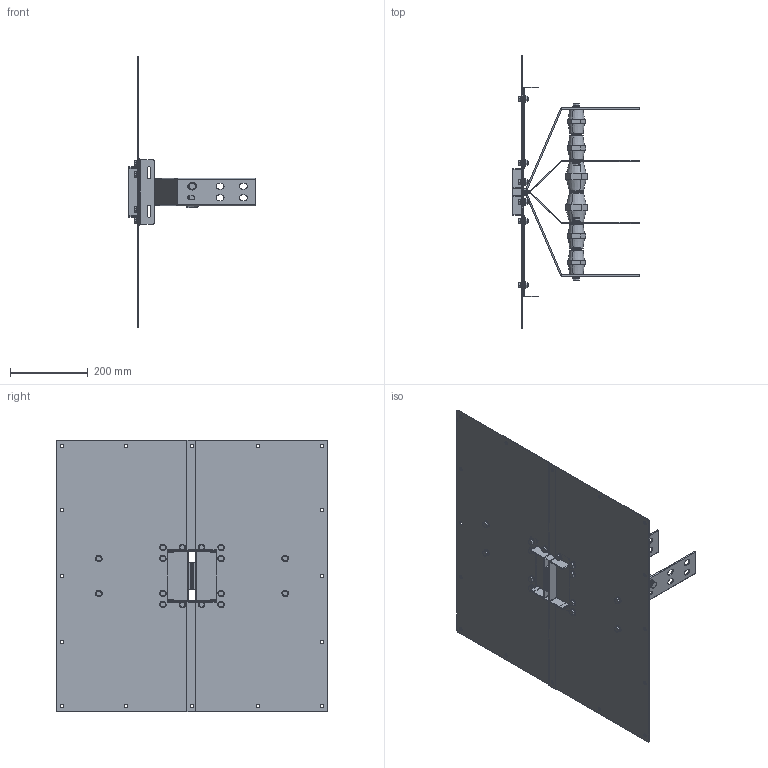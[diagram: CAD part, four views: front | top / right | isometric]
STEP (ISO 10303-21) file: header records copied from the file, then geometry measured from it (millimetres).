
FILE_DESCRIPTION(('CATIA V5 STEP','CAx-IF Rec.Pracs.--- Model Styling and Organization---1.5--- 2016-08-15','CAx-IF Rec.Pracs.---Supplemental Geometry---1.0---2011-11-01','CAx-IF Rec.Pracs.--- Composite Materials ---1.1---2010-07-15'),'2;1');
FILE_NAME('K:\COSCN 2011\32372311_RiduzioneSezioniBarre\03_Studio\__Modelli semplificati\XCP_UB semplificati per studi\XCP-S_UB_4C_Pe_CRT_Assieme\Cu\XCP-S_UB_4C_Pe_S_Assieme - 800A Cu_CRT\XCP-S_UB_4C_Pe_S_Assieme - 800A Cu_CRT.stp','2025-05-12T12:51:41+00:00',('Utente Bticino'),('Bticino S.p.A.'),'CATIA Version 5-6 Release 2020 SP5','CATIA V5 STEP AP214 v2','none');
FILE_SCHEMA(('AUTOMOTIVE_DESIGN { 1 0 10303 214 1 1 1 1 }'));
Length unit declared in the file: millimetre
Products named in the file (20): XCP-S_UB_4C_Pe_S_Assieme - 800A Cu_CRT; XCP-S_UB_4C_Pe_S_PaccoBarre_800A Cu_CRT; XCP-S_UB_4C_Pe_S_Lamiere_800A Cu_CRT; Ass_M10x25.1; 00740025 M10x25 UNI5739; Rondella spac M10 UNI 1751; 00750005; 130006; 130184; 130006_1; 130184_1; 130006_2; 130006_3; 00750033 - RONDELLA PIANA 4.8 D.12 UNI 6592 ZB; 00750033 - RONDELLA PIANA 4.8 D.12 UNI 6592 ZB_1; 00750033 - RONDELLA PIANA 4.8 D.12 UNI 6592 ZB_2; Viteria UB H130; Ass Vite+dado M8; Steel hex flanged SCREW M12x16; Steel hex flanged NUT M8
Assembly tree (39 placements, depth 4):
  XCP-S_UB_4C_Pe_S_Assieme - 800A Cu_CRT
    XCP-S_UB_4C_Pe_S_PaccoBarre_800A Cu_CRT
    XCP-S_UB_4C_Pe_S_Lamiere_800A Cu_CRT
    Ass_M10x25.1  x6
      00740025 M10x25 UNI5739
      Rondella spac M10 UNI 1751
      00750005
    130006
    130184
    130006_1
    130184_1
    130006_2
    130006_3
    00750033 - RONDELLA PIANA 4.8 D.12 UNI 6592 ZB
    00750033 - RONDELLA PIANA 4.8 D.12 UNI 6592 ZB_1
    00750033 - RONDELLA PIANA 4.8 D.12 UNI 6592 ZB_2
    Viteria UB H130
      Ass Vite+dado M8  x16
        Steel hex flanged SCREW M12x16
        Steel hex flanged NUT M8
Bounding box: 325 x 700 x 700 mm (x, y, z)
Volume: 2186451.9 mm3; surface area: 1643389.7 mm2
Topology: 73 solids, 73 shells, 1660 faces, 3980 edges, 2504 vertices
Faces by surface type: plane 728, cylinder 492, cone 200, bspline 176, torus 64
Entity records: 23814 total; most frequent: CARTESIAN_POINT 5202, ORIENTED_EDGE 3952, DIRECTION 3122, EDGE_CURVE 1976, AXIS2_PLACEMENT_3D 1370, VERTEX_POINT 1264, VECTOR 1132, LINE 1132
